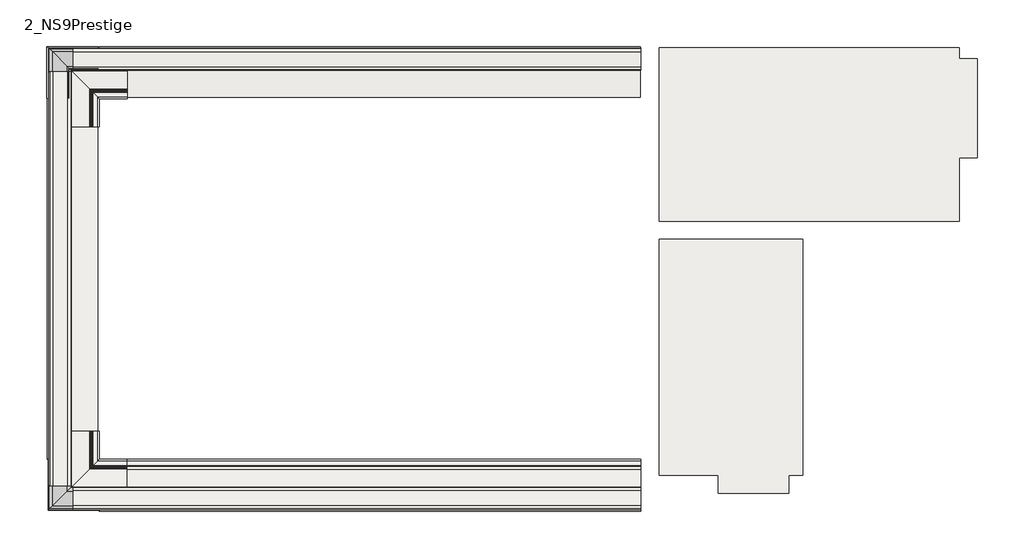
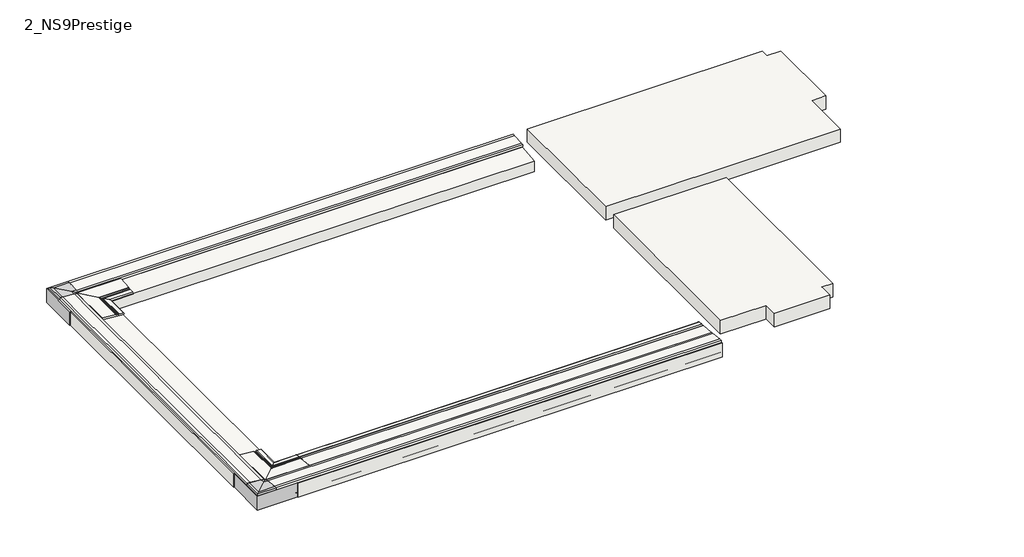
# One storey, incomplete: 12 slabs, 4 proxies.
"""IFC4 building model written with IfcOpenShell, lengths in millimetres."""

from ifc_helpers import new_model, si_unit, frame, origin, place, context, project, spatial, polyline, outline, extrude, transform, mapped, element, save
from components import generic_models_354e1113, generic_models_48877300, slab_c6e3ce8d, slab_463c4309, slab_b4f2f54f, slab_8bb5f8cc, slab_32e313b5, slab_916a11a8, bloque_rs_921_204e44f3, bloque_rs_921_461cb733, bloque_rs_921_51ceacdb

model = new_model("IFC4")

# Units and contexts
model_context = context("Model", 3, world=origin())
ifc_project = project(units=[si_unit("LENGTHUNIT", "METRE", prefix="MILLI")], contexts=[model_context])

# Site, building, storey
site = spatial("IfcSite", under=ifc_project)
building = spatial("IfcBuilding", under=site)
storey = spatial("IfcBuildingStorey", under=building, Name="2_NS9Prestige", Elevation=-245.0)

# Proxies
placement = place(None, origin())
generic_models_shape = generic_models_354e1113(model_context)
element("IfcBuildingElementProxy", 1, Name="ROSA GRES_245 EF : Pieza 245 EF_Tresor_Java_Anti-Slip", ObjectType="ROSA GRES_245 EF : Pieza 245 EF_Tresor_Java_Anti-Slip", at=placement, inside=storey, context=model_context, shape_type="MappedRepresentation", body=[
    mapped(generic_models_shape, transform((3272.9320464, 12712.6824974, -245.0), x_axis=(0.0, 1.0, 0.0), y_axis=(-1.0, 0.0, 0.0), z_axis=(0.0, 0.0, 1.0))),
])
element("IfcBuildingElementProxy", 2, Name="ROSA GRES_245 EF : Pieza 245 EF_Tresor_Java_Anti-Slip", ObjectType="ROSA GRES_245 EF : Pieza 245 EF_Tresor_Java_Anti-Slip", at=placement, inside=storey, context=model_context, shape_type="MappedRepresentation", body=[
    mapped(generic_models_shape, transform((3272.94813, 7591.6824974, -245.0), x_axis=(-1.0, 0.0, 0.0), y_axis=(0.0, -1.0, 0.0), z_axis=(0.0, 0.0, 1.0))),
])
generic_models_2_shape = generic_models_48877300(model_context)
element("IfcBuildingElementProxy", 3, Name="ROSA GRES_RS 921 Esquina Ángulo Interior : Bloque RS 921 Esquina Ángulo Int", ObjectType="ROSA GRES_RS 921 Esquina Ángulo Interior : Bloque RS 921 Esquina Ángulo Int", at=placement, inside=storey, context=model_context, shape_type="MappedRepresentation", body=[
    mapped(generic_models_2_shape, transform((3281.5886449, 7600.3230122, -245.0), x_axis=(-1.0, 0.0, 0.0), y_axis=(0.0, -1.0, 0.0), z_axis=(0.0, 0.0, 1.0))),
])
element("IfcBuildingElementProxy", 4, Name="ROSA GRES_RS 921 Esquina Ángulo Interior : Bloque RS 921 Esquina Ángulo Int", ObjectType="ROSA GRES_RS 921 Esquina Ángulo Interior : Bloque RS 921 Esquina Ángulo Int", at=placement, inside=storey, context=model_context, shape_type="MappedRepresentation", body=[
    mapped(generic_models_2_shape, transform((3262.94813, 12713.9324974, -245.0), x_axis=(0.0, 1.0, 0.0), y_axis=(-1.0, 0.0, 0.0), z_axis=(0.0, 0.0, 1.0))),
])

# Slabs
element("IfcSlab", 5, ObjectType="GENÉRICO_LOSA 20 cm", at=placement, inside=storey, context=model_context, shape_type="SweptSolid", body=[
    extrude(outline(polyline([(11636.8189647, 10590.3074974), (11636.8189647, 7975.3074974), (11479.8189647, 7975.3074974), (11479.8189647, 7775.3074974), (10695.44813, 7775.3074974), (10695.44813, 7975.3074974), (10045.44813, 7975.3074974), (10045.44813, 10590.3074974), (11636.8189647, 10590.3074974)])), frame((0.0, 0.0, -200.0), z_axis=(0.0, 0.0, 1.0), x_axis=(1.0, 0.0, 0.0)), (0.0, 0.0, 1.0), 200.0),
    extrude(outline(polyline([(13371.4446819, 12712.3234249), (13371.4446819, 12595.3074974), (13571.4446819, 12595.3074974), (13571.4446819, 11495.3074974), (13371.8189647, 11495.3074974), (13371.8189647, 10790.3074974), (10045.44813, 10790.3074974), (10045.44813, 12712.3234249), (13371.4446819, 12712.3234249)])), frame((0.0, 0.0, -200.0), z_axis=(0.0, 0.0, 1.0), x_axis=(1.0, 0.0, 0.0)), (0.0, 0.0, 1.0), 200.0),
])
slab_shape = slab_c6e3ce8d(model_context)
element("IfcSlab", 6, ObjectType="ROSA GRES_647 (corte) : Pieza 647_Tresor_Java_Anti-Slip", at=placement, inside=storey, context=model_context, shape_type="MappedRepresentation", body=[
    mapped(slab_shape, transform((4144.7782363, 12150.1706829, -71.1271722), x_axis=(-1.0, 0.0, 0.0), y_axis=(0.0, -1.0, 0.0), z_axis=(0.0, 0.0, 1.0))),
])
element("IfcSlab", 7, ObjectType="ROSA GRES_647 (corte) : Pieza 647_Tresor_Java_Anti-Slip", at=placement, inside=storey, context=model_context, shape_type="MappedRepresentation", body=[
    mapped(slab_shape, transform((3831.7782363, 8463.4853118, -71.1271722), x_axis=(0.0, -1.0, 0.0), y_axis=(1.0, 0.0, 0.0), z_axis=(0.0, 0.0, 1.0))),
])
slab_2_shape = slab_463c4309(model_context)
element("IfcSlab", 8, ObjectType="ROSA GRES_647 (corte) : Pieza 647_Tresor_Java_Anti-Slip", at=placement, inside=storey, context=model_context, shape_type="MappedRepresentation", body=[
    mapped(slab_2_shape, transform((3831.7782363, 11837.1706829, -71.1271722), x_axis=(0.0, 1.0, 0.0), y_axis=(-1.0, 0.0, 0.0), z_axis=(0.0, 0.0, 1.0))),
])
element("IfcSlab", 9, ObjectType="ROSA GRES_647 (corte) : Pieza 647_Tresor_Java_Anti-Slip", at=placement, inside=storey, context=model_context, shape_type="MappedRepresentation", body=[
    mapped(slab_2_shape, transform((4144.7782363, 8150.4853118, -71.1271722), x_axis=(-1.0, 0.0, 0.0), y_axis=(0.0, -1.0, 0.0), z_axis=(0.0, 0.0, 1.0))),
])
slab_3_shape = slab_b4f2f54f(model_context)
element("IfcSlab", 10, ObjectType="ROSA GRES_245 FL : Rejilla 245 FL_Tresor_Java_Anti-Slip", at=placement, inside=storey, context=model_context, shape_type="MappedRepresentation", body=[
    mapped(slab_3_shape, transform((9840.44813, 12154.1824974, -245.0), x_axis=(-1.0, 0.0, 0.0), y_axis=(0.0, -1.0, 0.0), z_axis=(0.0, 0.0, 1.0))),
])
slab_4_shape = slab_8bb5f8cc(model_context)
element("IfcSlab", 11, ObjectType="ROSA GRES_245 FL : Rejilla 245 FL_Tresor_Java_Anti-Slip", at=placement, inside=storey, context=model_context, shape_type="MappedRepresentation", body=[
    mapped(slab_4_shape, transform((3831.69813, 7858.4853118, -245.0), x_axis=(0.0, 1.0, 0.0), y_axis=(-1.0, 0.0, 0.0), z_axis=(0.0, 0.0, 1.0))),
])
slab_5_shape = slab_32e313b5(model_context)
element("IfcSlab", 12, ObjectType="ROSA GRES_647 : Pieza 647_Tresor_Java_Anti-Slip", at=placement, inside=storey, context=model_context, shape_type="MappedRepresentation", body=[
    mapped(slab_5_shape, transform((9840.44813, 8150.4324974, -245.0), x_axis=(-1.0, 0.0, 0.0), y_axis=(0.0, -1.0, 0.0), z_axis=(0.0, 0.0, 1.0))),
])
slab_6_shape = slab_916a11a8(model_context)
element("IfcSlab", 13, ObjectType="ROSA GRES_245 FL : Rejilla 245 FL_Tresor_Java_Anti-Slip", at=placement, inside=storey, context=model_context, shape_type="MappedRepresentation", body=[
    mapped(slab_6_shape, transform((9840.44813, 8150.4324974, -245.0), x_axis=(-1.0, 0.0, 0.0), y_axis=(0.0, -1.0, 0.0), z_axis=(0.0, 0.0, 1.0))),
])
bloque_rs_921_shape = bloque_rs_921_204e44f3(model_context)
element("IfcSlab", 14, ObjectType="ROSA GRES_RS 921 : Bloque_RS 921", at=placement, inside=storey, context=model_context, shape_type="MappedRepresentation", body=[
    mapped(bloque_rs_921_shape, transform((3831.69813, 8150.4324974, -245.0), x_axis=(0.0, 1.0, 0.0), y_axis=(-1.0, 0.0, 0.0), z_axis=(0.0, 0.0, 1.0))),
])
bloque_rs_921_2_shape = bloque_rs_921_461cb733(model_context)
element("IfcSlab", 15, ObjectType="ROSA GRES_RS 921 : Bloque_RS 921", at=placement, inside=storey, context=model_context, shape_type="MappedRepresentation", body=[
    mapped(bloque_rs_921_2_shape, transform((3831.69813, 12150.1824974, -245.0), x_axis=(1.0, 0.0, 0.0), y_axis=(0.0, 1.0, 0.0), z_axis=(0.0, 0.0, 1.0))),
])
bloque_rs_921_3_shape = bloque_rs_921_51ceacdb(model_context)
element("IfcSlab", 16, ObjectType="ROSA GRES_RS 921 : Bloque_RS 921", at=placement, inside=storey, context=model_context, shape_type="MappedRepresentation", body=[
    mapped(bloque_rs_921_3_shape, transform((9840.44813, 8150.4324974, -245.0), x_axis=(-1.0, 0.0, 0.0), y_axis=(0.0, -1.0, 0.0), z_axis=(0.0, 0.0, 1.0))),
])

save(model, "model.ifc")
